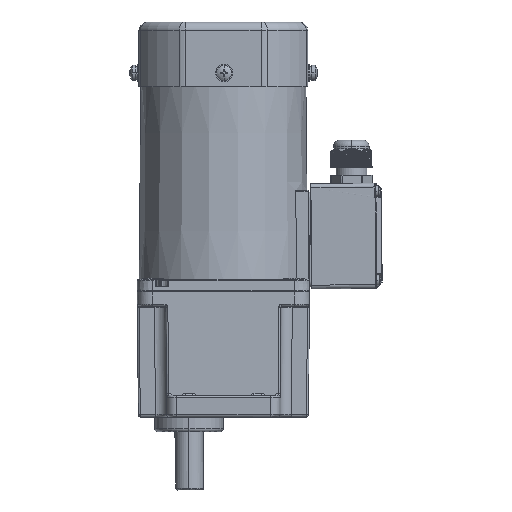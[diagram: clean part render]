
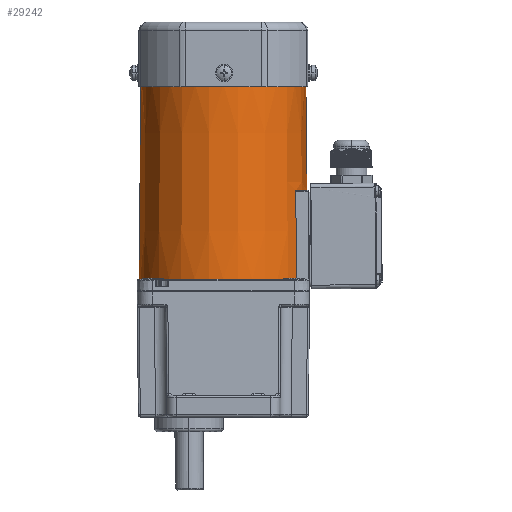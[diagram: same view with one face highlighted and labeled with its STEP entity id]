
A CAD part, front view. The second image highlights one B-rep face of the part: STEP entity #29242.
In plain terms, the highlighted conical face has half-angle 0.5 degrees and reference radius 43.555 mm.
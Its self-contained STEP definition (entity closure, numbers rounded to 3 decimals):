
#262 = CARTESIAN_POINT ( 'NONE',  ( 43.11, 0., 109. ) ) ;
#1925 = ORIENTED_EDGE ( 'NONE', *, *, #44879, .T. ) ;
#2587 = CARTESIAN_POINT ( 'NONE',  ( 37.872, -21.597, 53.203 ) ) ;
#2764 = VECTOR ( 'NONE', #67486, 1000. ) ;
#3777 = EDGE_CURVE ( 'NONE', #10242, #26338, #55136, .T. ) ;
#4457 = CARTESIAN_POINT ( 'NONE',  ( 37.95, -21.731, 37.802 ) ) ;
#8315 = EDGE_CURVE ( 'NONE', #46809, #15926, #33965, .T. ) ;
#8495 = AXIS2_PLACEMENT_3D ( 'NONE', #31266, #25954, #26274 ) ;
#9188 = ORIENTED_EDGE ( 'NONE', *, *, #8315, .T. ) ;
#9519 = FACE_OUTER_BOUND ( 'NONE', #40490, .T. ) ;
#9817 = CARTESIAN_POINT ( 'NONE',  ( 38.105, -22., 7. ) ) ;
#10242 = VERTEX_POINT ( 'NONE', #45188 ) ;
#10694 = CARTESIAN_POINT ( 'NONE',  ( 37.872, -21.597, 53.203 ) ) ;
#11647 = DIRECTION ( 'NONE',  ( 0., 0., 1. ) ) ;
#13074 = AXIS2_PLACEMENT_3D ( 'NONE', #68884, #47784, #20692 ) ;
#13159 = CARTESIAN_POINT ( 'NONE',  ( -43.11, 0., 109. ) ) ;
#13325 = CARTESIAN_POINT ( 'NONE',  ( 38.038, -21.297, 53.5 ) ) ;
#14254 = CIRCLE ( 'NONE', #41586, 43.11 ) ;
#14370 = CARTESIAN_POINT ( 'NONE',  ( 37.909, -21.528, 53.393 ) ) ;
#14837 = DIRECTION ( 'NONE',  ( 0.009, 0., -1. ) ) ;
#15926 = VERTEX_POINT ( 'NONE', #23237 ) ;
#18298 = DIRECTION ( 'NONE',  ( 0., 0., 1. ) ) ;
#18651 = CARTESIAN_POINT ( 'NONE',  ( 37.892, -21.559, 53.348 ) ) ;
#19890 = VECTOR ( 'NONE', #14837, 1000. ) ;
#20692 = DIRECTION ( 'NONE',  ( -1., 0., 0. ) ) ;
#21532 = VERTEX_POINT ( 'NONE', #60624 ) ;
#22979 = ORIENTED_EDGE ( 'NONE', *, *, #29991, .F. ) ;
#23237 = CARTESIAN_POINT ( 'NONE',  ( -44., 0., 7. ) ) ;
#23755 = ORIENTED_EDGE ( 'NONE', *, *, #49224, .T. ) ;
#24874 = CARTESIAN_POINT ( 'NONE',  ( 43.11, 0., 109. ) ) ;
#25954 = DIRECTION ( 'NONE',  ( 0., 0., -1. ) ) ;
#26274 = DIRECTION ( 'NONE',  ( 1., 0., 0. ) ) ;
#26338 = VERTEX_POINT ( 'NONE', #10694 ) ;
#26654 = CARTESIAN_POINT ( 'NONE',  ( 38.038, -21.297, 53.5 ) ) ;
#29242 = ADVANCED_FACE ( 'NONE', ( #9519 ), #36953, .T. ) ;
#29991 = EDGE_CURVE ( 'NONE', #46809, #42943, #14254, .T. ) ;
#31266 = CARTESIAN_POINT ( 'NONE',  ( 0., 0., 58. ) ) ;
#31576 = CARTESIAN_POINT ( 'NONE',  ( 38.028, -21.866, 22.401 ) ) ;
#32179 = VERTEX_POINT ( 'NONE', #26654 ) ;
#33965 = LINE ( 'NONE', #45679, #2764 ) ;
#35410 = CARTESIAN_POINT ( 'NONE',  ( 37.887, -21.568, 53.332 ) ) ;
#35452 = B_SPLINE_CURVE_WITH_KNOTS ( 'NONE', 3,
 ( #2587, #67537, #41453, #35410, #18651, #40403, #14370, #45406, #62189, #13325 ),
 .UNSPECIFIED., .F., .F.,
 ( 4, 2, 2, 2, 4 ),
 ( 0., 0.25, 0.375, 0.5, 1. ),
 .UNSPECIFIED. ) ;
#35512 = AXIS2_PLACEMENT_3D ( 'NONE', #44118, #11647, #54773 ) ;
#36953 = CONICAL_SURFACE ( 'NONE', #8495, 43.555, 0.009 ) ;
#40395 = DIRECTION ( 'NONE',  ( -1., 0., 0. ) ) ;
#40403 = CARTESIAN_POINT ( 'NONE',  ( 37.903, -21.538, 53.379 ) ) ;
#40490 = EDGE_LOOP ( 'NONE', ( #42708, #22979, #9188, #52002, #66066, #1925, #23755 ) ) ;
#41453 = CARTESIAN_POINT ( 'NONE',  ( 37.876, -21.589, 53.28 ) ) ;
#41586 = AXIS2_PLACEMENT_3D ( 'NONE', #45038, #18298, #40395 ) ;
#42057 = EDGE_CURVE ( 'NONE', #42943, #21532, #57660, .T. ) ;
#42708 = ORIENTED_EDGE ( 'NONE', *, *, #42057, .F. ) ;
#42943 = VERTEX_POINT ( 'NONE', #262 ) ;
#44118 = CARTESIAN_POINT ( 'NONE',  ( 0., 0., 53.5 ) ) ;
#44879 = EDGE_CURVE ( 'NONE', #26338, #32179, #35452, .T. ) ;
#45038 = CARTESIAN_POINT ( 'NONE',  ( 0., 0., 109. ) ) ;
#45188 = CARTESIAN_POINT ( 'NONE',  ( 38.105, -22., 7. ) ) ;
#45406 = CARTESIAN_POINT ( 'NONE',  ( 37.95, -21.454, 53.469 ) ) ;
#45679 = CARTESIAN_POINT ( 'NONE',  ( -43.11, 0., 109. ) ) ;
#46553 = EDGE_CURVE ( 'NONE', #15926, #10242, #65461, .T. ) ;
#46809 = VERTEX_POINT ( 'NONE', #13159 ) ;
#47784 = DIRECTION ( 'NONE',  ( 0., 0., 1. ) ) ;
#49224 = EDGE_CURVE ( 'NONE', #32179, #21532, #58261, .T. ) ;
#52002 = ORIENTED_EDGE ( 'NONE', *, *, #46553, .T. ) ;
#54773 = DIRECTION ( 'NONE',  ( 0.873, -0.489, 0. ) ) ;
#55136 = B_SPLINE_CURVE_WITH_KNOTS ( 'NONE', 3,
 ( #9817, #31576, #4457, #65065 ),
 .UNSPECIFIED., .F., .F.,
 ( 4, 4 ),
 ( 0., 1. ),
 .UNSPECIFIED. ) ;
#57660 = LINE ( 'NONE', #24874, #19890 ) ;
#58261 = CIRCLE ( 'NONE', #35512, 43.594 ) ;
#60624 = CARTESIAN_POINT ( 'NONE',  ( 43.594, 0., 53.5 ) ) ;
#62189 = CARTESIAN_POINT ( 'NONE',  ( 37.991, -21.382, 53.5 ) ) ;
#65065 = CARTESIAN_POINT ( 'NONE',  ( 37.872, -21.597, 53.203 ) ) ;
#65461 = CIRCLE ( 'NONE', #13074, 44. ) ;
#66066 = ORIENTED_EDGE ( 'NONE', *, *, #3777, .T. ) ;
#67486 = DIRECTION ( 'NONE',  ( -0.009, 0., -1. ) ) ;
#67537 = CARTESIAN_POINT ( 'NONE',  ( 37.872, -21.596, 53.243 ) ) ;
#68884 = CARTESIAN_POINT ( 'NONE',  ( 0., 0., 7. ) ) ;
